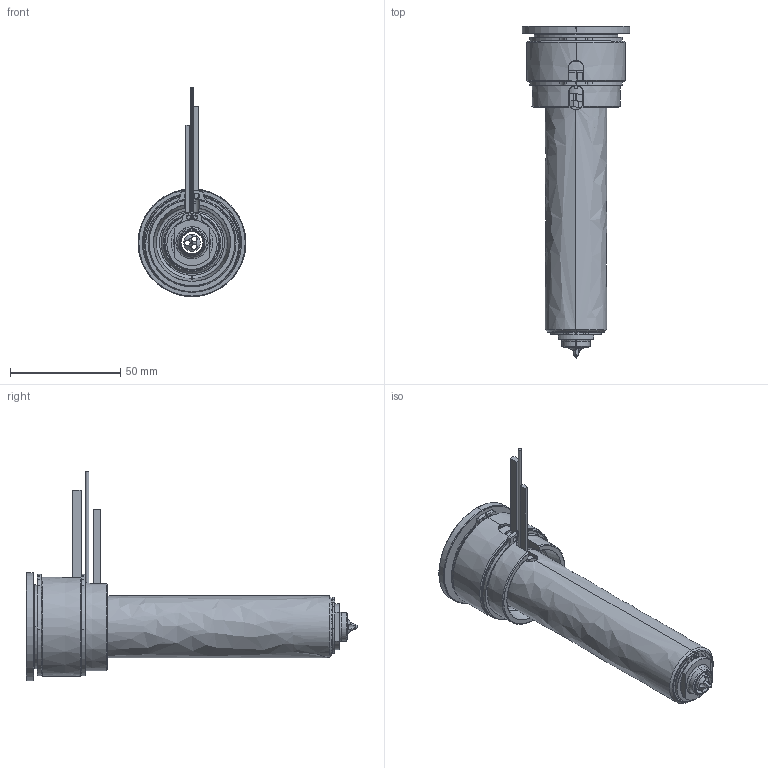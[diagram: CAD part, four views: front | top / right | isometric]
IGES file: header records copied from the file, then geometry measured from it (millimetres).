
Start section: SolidWorks IGES file using analytic representation for surfaces
Global section: file name: C:\Documents and Settings\ws-20\Desktop\TEM\UGEP4503-S-A-0 [Øf-0.88 ØC-10].IGS; native system: SolidWorks 2012; preprocessor: SolidWorks 2012; author: ws-20; date: 120424.090751; units: millimetre
Bounding box: 49 x 150.8 x 95.15 mm (x, y, z)
Surface area: 56839.4 mm2 (no closed solid volume)
Topology: 0 solids, 0 shells, 184 faces, 3506 edges, 3506 vertices
Faces by surface type: revolution 120, bspline 64
